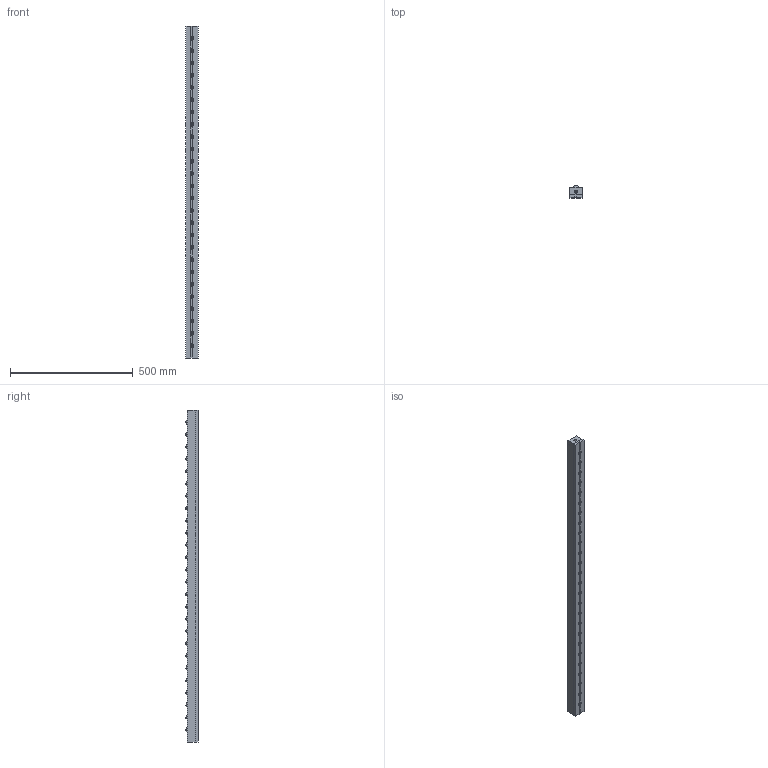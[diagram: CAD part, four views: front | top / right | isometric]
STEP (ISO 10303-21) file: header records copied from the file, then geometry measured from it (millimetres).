
FILE_DESCRIPTION (( 'STEP AP203' ), '1' );
FILE_NAME ('PVL55SH-26.STEP', '2016-02-18T08:56:16', ( '' ), ( '' ), 'SwSTEP 2.0', 'SolidWorks 2013', '' );
FILE_SCHEMA (( 'CONFIG_CONTROL_DESIGN' ));
Length unit declared in the file: millimetre
Products named in the file (1): PVL55SH-26
Bounding box: 49 x 50 x 1350 mm (x, y, z)
Volume: 2864682.4 mm3; surface area: 459774.3 mm2
Topology: 2 solids, 2 shells, 1109 faces, 2388 edges, 1599 vertices
Faces by surface type: cylinder 642, plane 411, sphere 52, cone 4
Entity records: 31007 total; most frequent: DIRECTION 6102, CARTESIAN_POINT 5095, ORIENTED_EDGE 4772, AXIS2_PLACEMENT_3D 2606, EDGE_CURVE 2386, VERTEX_POINT 1599, CIRCLE 1496, EDGE_LOOP 1435
